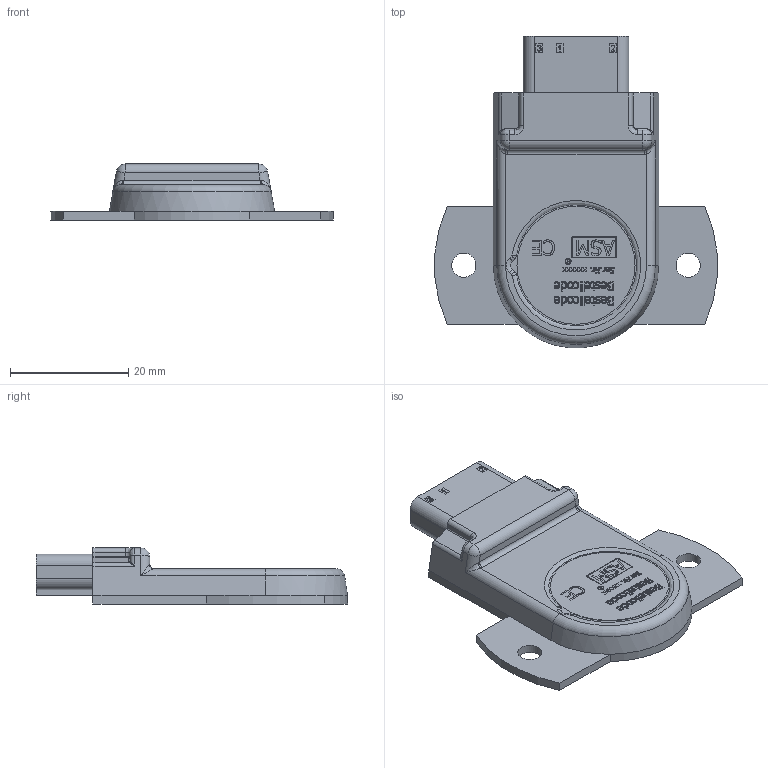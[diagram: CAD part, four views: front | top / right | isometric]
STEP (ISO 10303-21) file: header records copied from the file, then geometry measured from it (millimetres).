
FILE_DESCRIPTION((''),'2;1');
FILE_NAME('K:\Daten\Pras26.stp','2013-11-13T13:42:07',('kamp'),(''),'Autodesk Inventor 2008','Autodesk Inventor 2008','');
FILE_SCHEMA(('AUTOMOTIVE_DESIGN { 1 0 10303 214 1 1 1 1 }'));
Length unit declared in the file: millimetre
Products named in the file (1): Bauteil19
Bounding box: 47.82 x 52.74 x 9.5 mm (x, y, z)
Volume: 8100 mm3; surface area: 5007.1 mm2
Topology: 1 solids, 1 shells, 943 faces, 2552 edges, 1680 vertices
Faces by surface type: plane 565, bspline 308, cylinder 58, torus 9, sphere 2, cone 1
Full cylindrical faces by diameter (mm): 0.923 x1, 1.024 x1, 4.1 x2, 20 x1
Entity records: 32386 total; most frequent: CARTESIAN_POINT 9599, ORIENTED_EDGE 5082, DIRECTION 3406, EDGE_CURVE 2541, VECTOR 1796, LINE 1796, VERTEX_POINT 1680, EDGE_LOOP 1029
